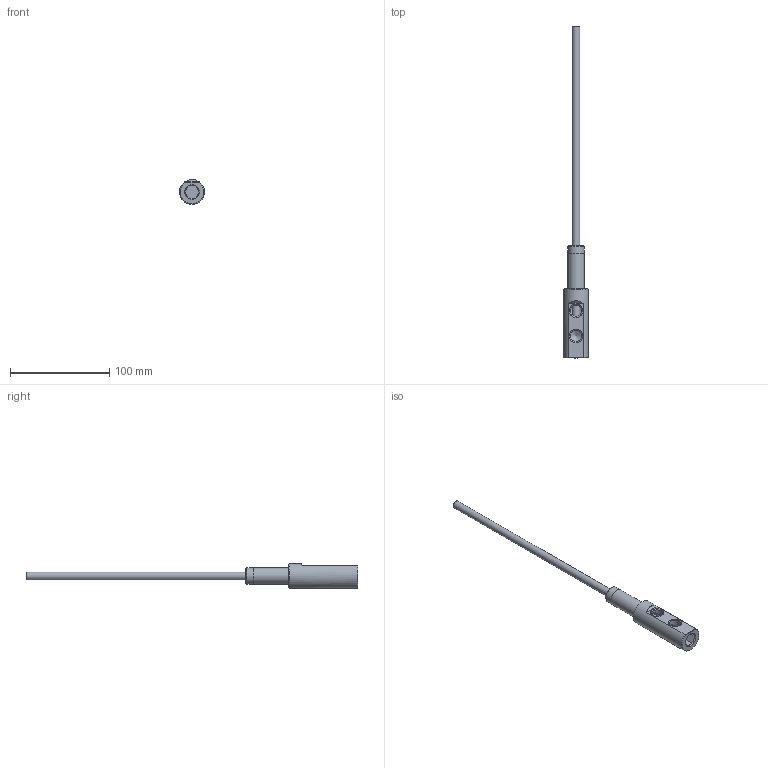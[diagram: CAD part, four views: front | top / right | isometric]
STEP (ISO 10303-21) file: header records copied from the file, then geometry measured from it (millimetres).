
FILE_DESCRIPTION(/* description */ (''),/* implementation_level */ '2;1');
FILE_NAME(/* name */ 'C:/Users/drich/Desktop/E381H-4 v1.step',/* time_stamp */ '2020-12-12T11:48:31-06:00',/* author */ (''),/* organization */ (''),/* preprocessor_version */ 'ST-DEVELOPER v18.1',/* originating_system */ 'Autodesk Translation Framework v9.3.0.1241',/* authorisation */ '');
FILE_SCHEMA (('AUTOMOTIVE_DESIGN { 1 0 10303 214 3 1 1 }'));
Length unit declared in the file: inch
Products named in the file (4): E381H-4; E381H-4_1; SSPN38-2; HF312T-12
Assembly tree (3 placements, depth 3):
  E381H-4
    E381H-4_1
      SSPN38-2
      HF312T-12
Bounding box: 25.02 x 335.03 x 25.02 mm (x, y, z)
Volume: 31437.2 mm3; surface area: 28420.9 mm2
Topology: 3 solids, 3 shells, 52 faces, 120 edges, 78 vertices
Faces by surface type: plane 21, cylinder 15, cone 13, torus 3
Full cylindrical faces by diameter (mm): 7.315 x1, 7.925 x1, 8.509 x1, 9.406 x1, 9.576 x1, 11.668 x3, 12.522 x1, 12.7 x1, 15.173 x1, 17.094 x2, 17.145 x1, 25.019 x1
Entity records: 1717 total; most frequent: CARTESIAN_POINT 421, DIRECTION 264, ORIENTED_EDGE 236, EDGE_CURVE 118, AXIS2_PLACEMENT_3D 109, VERTEX_POINT 78, EDGE_LOOP 66, FACE_OUTER_BOUND 52
